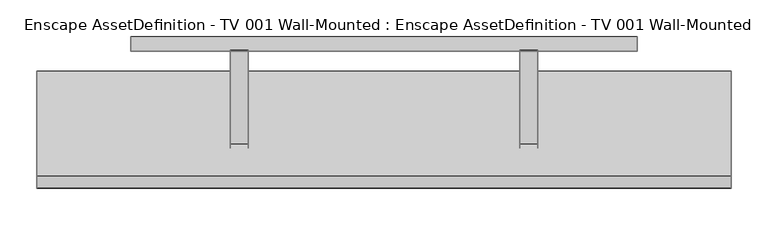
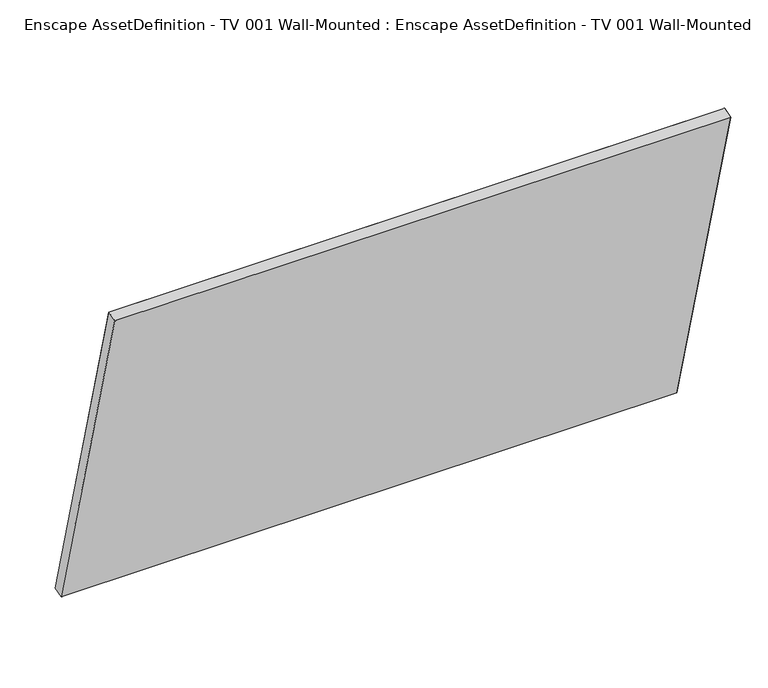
"""IFC4 building model written with IfcOpenShell, lengths in millimetres: geographic element geometry, Enscape AssetDefinition - TV 001 Wall-Mounted : Enscape AssetDefinition - TV 001 Wall-Mounted."""

from ifc_helpers import new_model, si_unit, origin, place, context, project, spatial, triangles, source, transform, mapped, element, save


def enscape_assetdefinition_tv_001_wall_mounted_enscape_d5117aad(model_context):
    return source(origin(), model_context, "Body", "Tessellation", [
        triangles([(329.9740085, -19.661309, 0.8419624), (-363.4068515, -19.661309, 0.8419624), (-363.4068515, 0.1495722, 0.8419624), (329.9740085, -19.6622991, 99.8963734), (329.9740085, 0.1485816, 99.8963734), (-363.4068515, 0.1485816, 99.8963734), (-363.4068515, -19.6622991, 99.8963734), (329.9740085, 0.1495722, 0.8419624), (-492.1775888, -47.0290516, -264.3306497), (458.7447458, -47.0290516, -264.3306497), (458.7447458, -63.104592, -268.6375453), (-492.1775888, -63.104592, -268.6375453), (458.7447458, -207.1851552, 269.0793242), (-492.1775888, -207.1851552, 269.0793242), (-492.1775888, -191.1106277, 273.3862016), (458.7447458, -191.1106277, 273.3862016), (193.7742006, -20.913356, -194.915301), (169.0105958, -70.2711786, -194.915301), (169.0105958, -20.913356, -194.915301), (169.0105958, -152.6042027, 106.6330715), (169.0105958, -18.4746388, 117.0436825), (193.7742006, -18.4746388, 117.0436825), (193.7742006, -70.2711786, -194.915301), (193.7742006, -152.6042027, 106.6330715), (-202.4434207, -20.913356, -194.915301), (-202.4434207, -70.2711786, -194.915301), (-227.2070436, -70.2711786, -194.915301), (-227.2070436, -152.6042027, 106.6330715), (-227.2070436, -20.913356, -194.915301), (-227.2070436, -18.4746388, 117.0436825), (-202.4434207, -18.4746388, 117.0436825), (-202.4434207, -152.6042027, 106.6330715)], [[31, 30, 28], [28, 32, 31], [31, 32, 26], [30, 31, 25], [26, 25, 31], [28, 30, 29], [25, 29, 30], [29, 27, 28], [25, 26, 27], [27, 29, 25], [22, 21, 20], [20, 24, 22], [22, 24, 23], [21, 22, 17], [23, 17, 22], [20, 21, 19], [17, 19, 21], [19, 18, 20], [17, 23, 18], [18, 19, 17], [16, 15, 14], [14, 13, 16], [16, 13, 11], [15, 16, 10], [11, 10, 16], [14, 15, 9], [10, 9, 15], [9, 12, 14], [13, 14, 12], [12, 11, 13], [10, 11, 12], [12, 9, 10], [1, 8, 5], [5, 4, 1], [5, 6, 7], [7, 4, 5], [7, 6, 3], [3, 2, 7], [4, 7, 2], [2, 1, 4], [8, 1, 2], [2, 3, 8]], closed=False),
    ])


if __name__ == "__main__":
    model = new_model("IFC4")
    model_context = context("Model", 3, world=origin())
    ifc_project = project(units=[si_unit("LENGTHUNIT", "METRE", prefix="MILLI")], contexts=[model_context])
    site = spatial("IfcSite", under=ifc_project)
    building = spatial("IfcBuilding", under=site)
    placement = place(None, origin())
    enscape_assetdefinition_tv_001_wall_mounted_enscape_shape = enscape_assetdefinition_tv_001_wall_mounted_enscape_d5117aad(model_context)
    element("IfcGeographicElement", 1, ObjectType="Enscape AssetDefinition - TV 001 Wall-Mounted : Enscape AssetDefinition - TV 001 Wall-Mounted", at=placement, inside=building, context=model_context, shape_type="MappedRepresentation", body=[
        mapped(enscape_assetdefinition_tv_001_wall_mounted_enscape_shape, transform((0.0, 0.0, 0.0), x_axis=(1.0, 0.0, 0.0), y_axis=(0.0, 1.0, 0.0), z_axis=(0.0, 0.0, 1.0))),
    ])
    save(model, "model.ifc")
